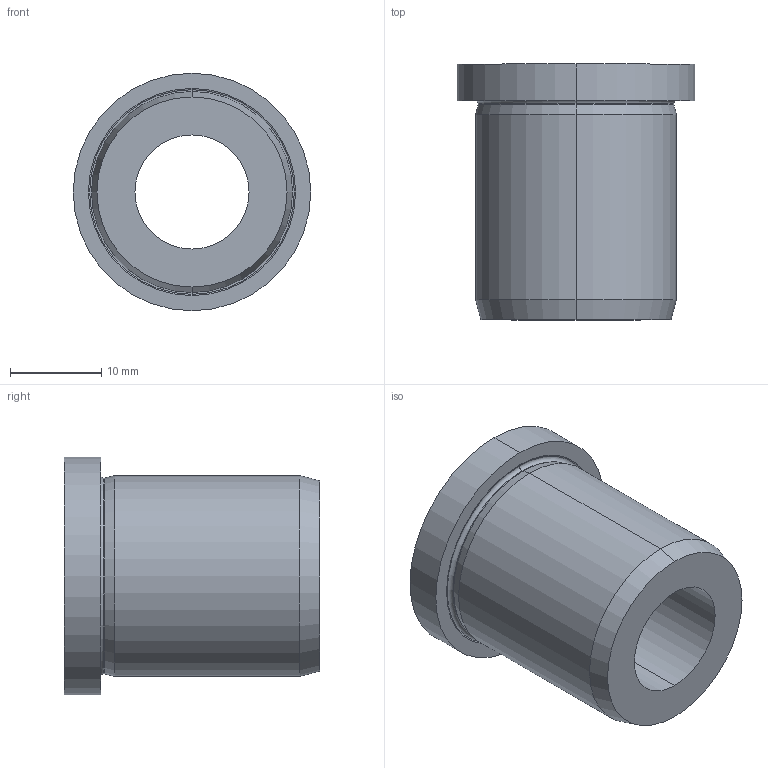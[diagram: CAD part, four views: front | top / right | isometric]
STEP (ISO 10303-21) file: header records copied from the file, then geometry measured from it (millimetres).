
FILE_DESCRIPTION (( 'STEP AP214' ), '1' );
FILE_NAME ('172-B12,5-28-A.step', '2024-10-17T05:09:35', ( '' ), ( '' ), 'SwSTEP 2.0', 'SolidWorks 2022', '' );
FILE_SCHEMA (( 'AUTOMOTIVE_DESIGN' ));
Length unit declared in the file: millimetre
Products named in the file (1): 172-B12,5-28-A
Bounding box: 26 x 28 x 26 mm (x, y, z)
Volume: 7744.1 mm3; surface area: 3866.2 mm2
Topology: 1 solids, 1 shells, 21 faces, 42 edges, 24 vertices
Faces by surface type: torus 6, cone 6, cylinder 6, plane 3
Entity records: 632 total; most frequent: DIRECTION 116, CARTESIAN_POINT 88, ORIENTED_EDGE 84, AXIS2_PLACEMENT_3D 52, EDGE_CURVE 42, CIRCLE 30, EDGE_LOOP 24, VERTEX_POINT 24
